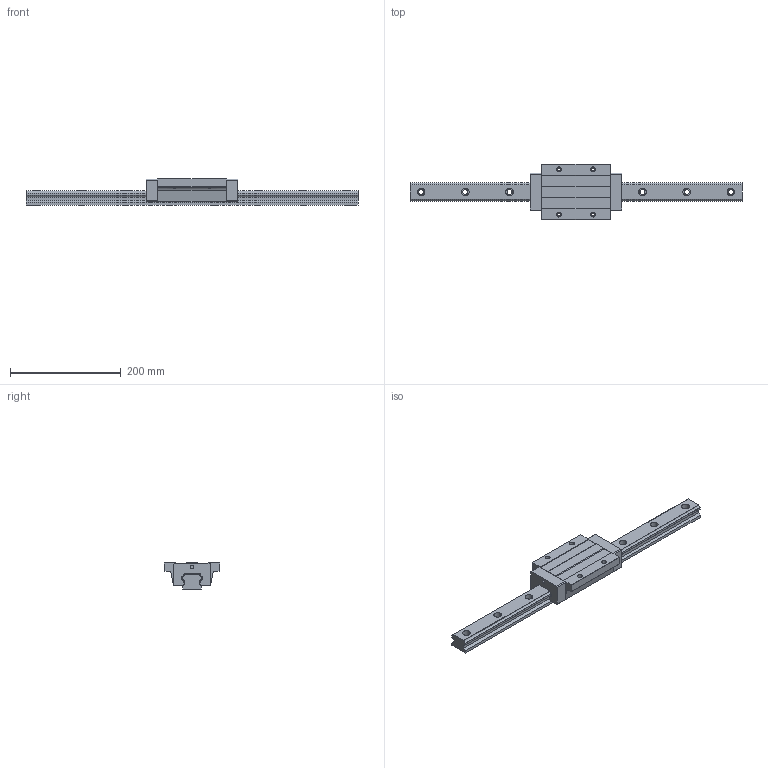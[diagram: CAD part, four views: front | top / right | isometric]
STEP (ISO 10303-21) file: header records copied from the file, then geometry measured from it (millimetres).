
FILE_DESCRIPTION (( 'STEP AP203' ), '1' );
FILE_NAME ('TRH35FE-WW.STEP', '2023-02-01T05:24:24', ( '' ), ( '' ), 'SwSTEP 2.0', 'SolidWorks 2019', '' );
FILE_SCHEMA (( 'CONFIG_CONTROL_DESIGN' ));
Length unit declared in the file: millimetre
Products named in the file (1): TRH35FE-WW
Bounding box: 600 x 100 x 48 mm (x, y, z)
Volume: 852001.5 mm3; surface area: 146651.3 mm2
Topology: 4 solids, 4 shells, 170 faces, 460 edges, 304 vertices
Faces by surface type: plane 96, cylinder 74
Entity records: 5747 total; most frequent: CARTESIAN_POINT 1195, DIRECTION 942, ORIENTED_EDGE 920, EDGE_CURVE 460, AXIS2_PLACEMENT_3D 319, LINE 304, VECTOR 304, VERTEX_POINT 304
